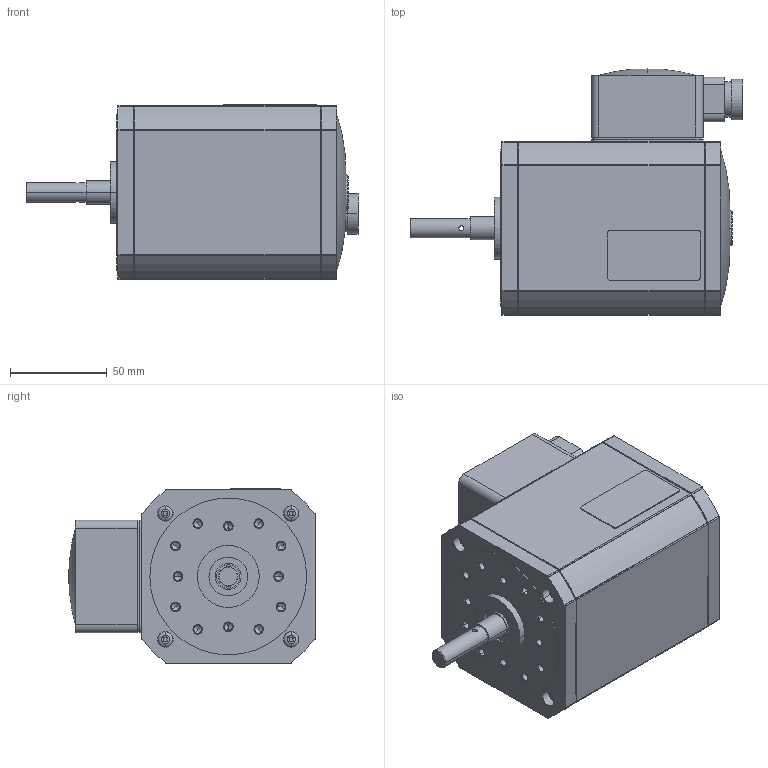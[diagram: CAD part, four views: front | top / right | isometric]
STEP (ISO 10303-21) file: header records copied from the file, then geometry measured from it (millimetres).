
FILE_DESCRIPTION( ( '' ), '1' );
FILE_NAME( '//partserver001.servicenet/client_exchange/iodir/jobs/output/wkb20606228_no0/STEP/igk_80_40__2266164_ohne_fuss_ohne_bremse_4_polig_2_03.stp', '2009-12-02T18:39:41', ( '' ), ( '' ), ' ', ' ', ' ' );
FILE_SCHEMA( ( 'CONFIG_CONTROL_DESIGN' ) );
Length unit declared in the file: millimetre
Products named in the file (1): 1
Bounding box: 171.5 x 127.5 x 90.5 mm (x, y, z)
Volume: 1030970.4 mm3; surface area: 68487.8 mm2
Topology: 1 solids, 1 shells, 428 faces, 1117 edges, 721 vertices
Faces by surface type: plane 176, cylinder 176, cone 52, torus 24
Entity records: 13195 total; most frequent: DIRECTION 2409, CARTESIAN_POINT 2311, ORIENTED_EDGE 2182, EDGE_CURVE 1091, AXIS2_PLACEMENT_3D 895, VERTEX_POINT 721, LINE 619, VECTOR 619
